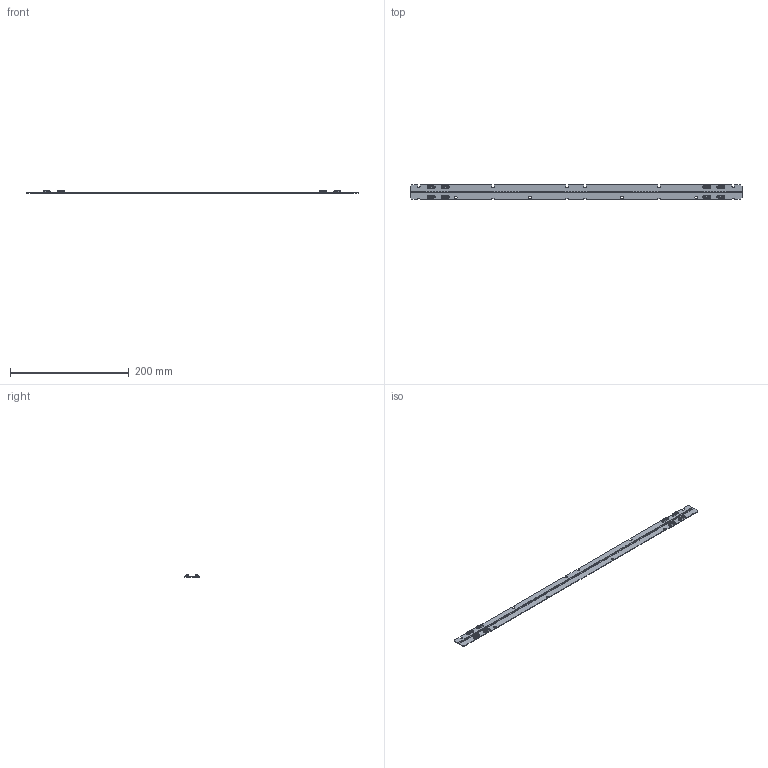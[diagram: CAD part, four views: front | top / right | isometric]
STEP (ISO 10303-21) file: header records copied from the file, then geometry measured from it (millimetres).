
FILE_DESCRIPTION(/* description */ ('Unknown'),/* implementation_level */ '2;1');
FILE_NAME(/* name */ 'LinLED 560x24mm 2x2000lm 2x4C 42V sh-000 2023-05-19',/* time_stamp */ '2023-05-19T10:14:09+02:00',/* author */ ('Unknown'),/* organization */ ('Unknown'),/* preprocessor_version */ 'ST-DEVELOPER v18.102',/* originating_system */ 'Solid Edge',/* authorisation */ 'Unknown');
FILE_SCHEMA (('AUTOMOTIVE_DESIGN {1 0 10303 214 3 1 1}'));
Products named in the file (1): LinLED 560x24mm 2x2000lm 2x4C 42V sh-000 2023-05-19
Bounding box: 559.6 x 24 x 4.45 mm (x, y, z)
Volume: 14869.7 mm3; surface area: 30325.8 mm2
Topology: 1 solids, 1 shells, 3746 faces, 9740 edges, 6220 vertices
Faces by surface type: plane 2576, cylinder 546, torus 256, cone 200, bspline 104, sphere 64
Full cylindrical faces by diameter (mm): 4.3 x4
Entity records: 143161 total; most frequent: CARTESIAN_POINT 28599, ORIENTED_EDGE 19272, DIRECTION 16270, EDGE_CURVE 9636, LINE 7152, VECTOR 7152, VERTEX_POINT 6192, AXIS2_PLACEMENT_3D 4559
